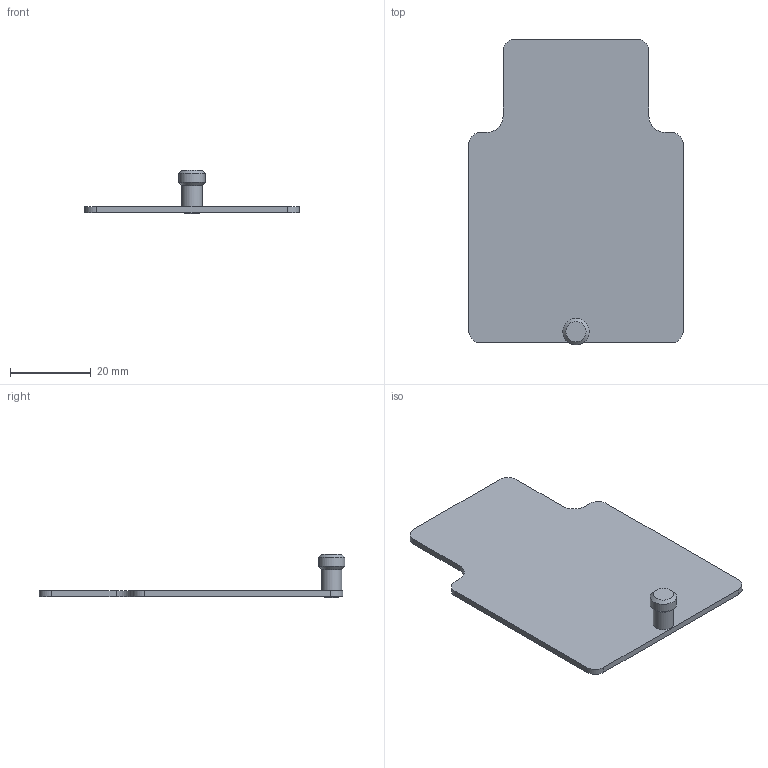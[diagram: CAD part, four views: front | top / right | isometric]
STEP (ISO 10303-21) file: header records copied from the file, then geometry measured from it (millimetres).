
FILE_DESCRIPTION(/* description */ (''),/* implementation_level */ '2;1');
FILE_NAME(/* name */ 'LA-3061-2309#-A.stp',/* time_stamp */ '2012-09-06T15:34:51+01:00',/* author */ (''),/* organization */ (''),/* preprocessor_version */ 'ST-DEVELOPER v11',/* originating_system */ 'SIEMENS PLM Software NX 7.5',/* authorisation */ '');
FILE_SCHEMA (('AUTOMOTIVE_DESIGN { 1 0 10303 214 1 1 1 1 }'));
Length unit declared in the file: millimetre
Products named in the file (1): rt134014x51o
Bounding box: 53 x 75.5 x 10.7 mm (x, y, z)
Volume: 5582.3 mm3; surface area: 7713.3 mm2
Topology: 1 solids, 2 shells, 28 faces, 65 edges, 43 vertices
Faces by surface type: plane 14, cylinder 11, cone 2, torus 1
Full cylindrical faces by diameter (mm): 2.15 x1, 5 x1, 6.5 x1
Entity records: 978 total; most frequent: DIRECTION 140, CARTESIAN_POINT 127, ORIENTED_EDGE 114, EDGE_CURVE 57, AXIS2_PLACEMENT_3D 54, VERTEX_POINT 41, EDGE_LOOP 36, LINE 32
